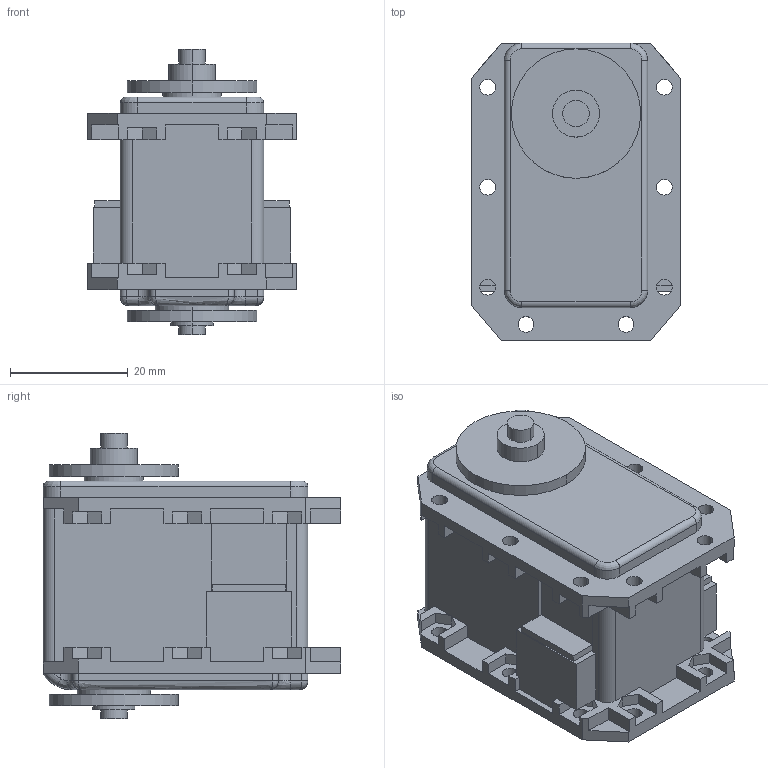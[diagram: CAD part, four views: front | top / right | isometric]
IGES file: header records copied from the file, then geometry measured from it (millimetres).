
Start section:  PTC IGES file: dc07_00a_h.igs
Global section: file name: dc07_00a_h.igs; native system: Pro/ENGINEER by Parametric Technology Corporation; preprocessor: 2006170; author: bono; organization: Unknown; date: 20061129.180820; units: millimetre
Bounding box: 35.6 x 50.6 x 48.5 mm (x, y, z)
Surface area: 12504.5 mm2 (no closed solid volume)
Topology: 0 solids, 0 shells, 348 faces, 1880 edges, 1880 vertices
Faces by surface type: bspline 254, revolution 94
